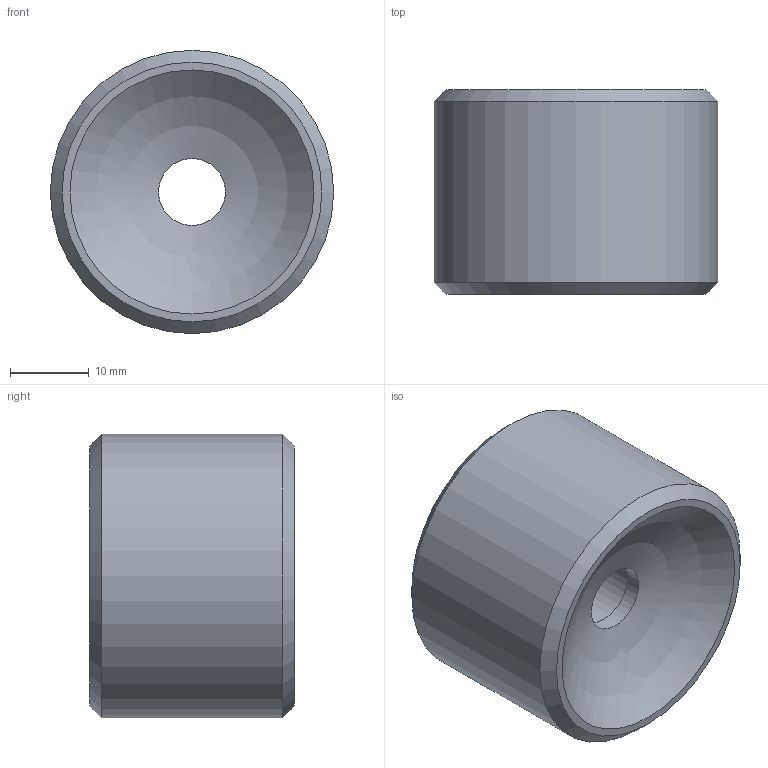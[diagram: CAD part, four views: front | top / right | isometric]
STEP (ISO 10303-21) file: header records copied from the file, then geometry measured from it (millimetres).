
FILE_DESCRIPTION(('CAx-IF Rec.Pracs.---Model Styling and Organization---1.5---2016-08-15','CAx-IF Rec.Pracs.---Geometric and Assembly Validation Properties---4.4---2016-08-17','CAx-IF Rec.Pracs.---User Defined Attributes---1.5---2016-08-15','CAx-IF Rec.Pracs.---External References---2.1---2005-01-19'),'2;1');
FILE_NAME('EZ-0249-M36x1.5-R22-26-Andruckschraube-Bestell-Nr.-0028243.stp','2023-03-13T16:50:15',('Unspecified'),('Unspecified'),'CAD Exchanger 3.17.0 (cadexchanger.com)','Unspecified','');
FILE_SCHEMA(('AP242_MANAGED_MODEL_BASED_3D_ENGINEERING_MIM_LF { 1 0 10303 442 1 1 4 }'));
Length unit declared in the file: millimetre
Products named in the file (1): EZ-0249-M36x1.5-R22-26-Andruckschraube-Bestell-Nr.-0028243
Bounding box: 36 x 26 x 36 mm (x, y, z)
Volume: 22064.1 mm3; surface area: 5437.9 mm2
Topology: 1 solids, 1 shells, 21 faces, 46 edges, 28 vertices
Faces by surface type: plane 15, cylinder 3, cone 2, sphere 1
Full cylindrical faces by diameter (mm): 8.5 x1, 10 x1, 36 x1
Entity records: 922 total; most frequent: CARTESIAN_POINT 100, DIRECTION 98, ORIENTED_EDGE 92, EDGE_CURVE 46, AXIS2_PLACEMENT_3D 37, PROPERTY_DEFINITION 36, REPRESENTATION 36, PROPERTY_DEFINITION_REPRESENTATION 36
